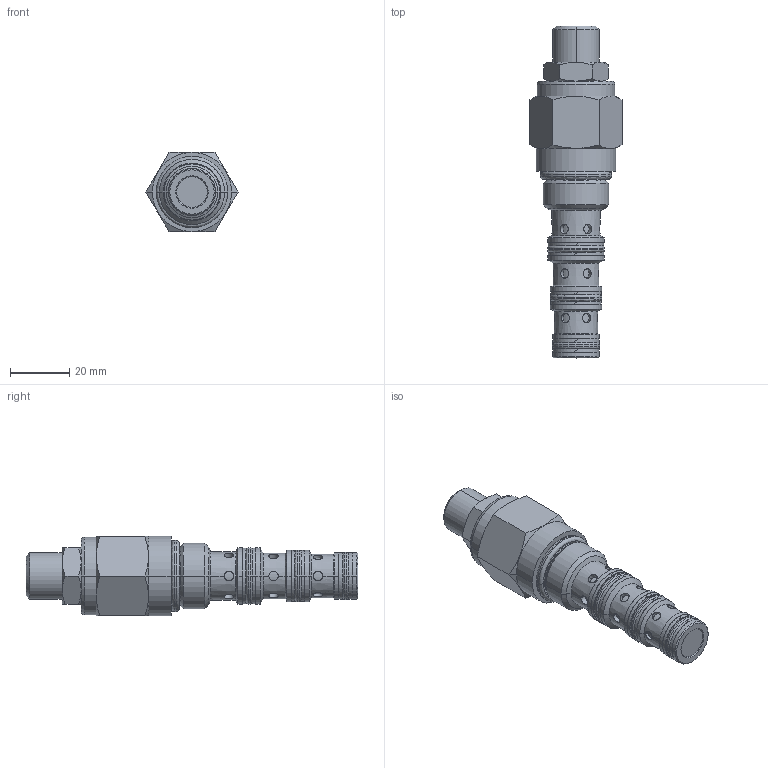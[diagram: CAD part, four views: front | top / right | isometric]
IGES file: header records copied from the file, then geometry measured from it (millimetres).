
Start section:  PTC IGES file: DCPS-10-A-S.igs
Global section: file name: DCPS-10-A-S.igs; native system: Creo Elements/Pro by Parametric Technology Corporation; preprocessor: 2015070; author: torrese; organization: Unknown; date: 20151221.144135; units: inch
Bounding box: 31.15 x 112.34 x 26.97 mm (x, y, z)
Volume: 37564.7 mm3; surface area: 9552.8 mm2
Topology: 1 solids, 1 shells, 245 faces, 564 edges, 347 vertices
Faces by surface type: revolution 187, bspline 58
